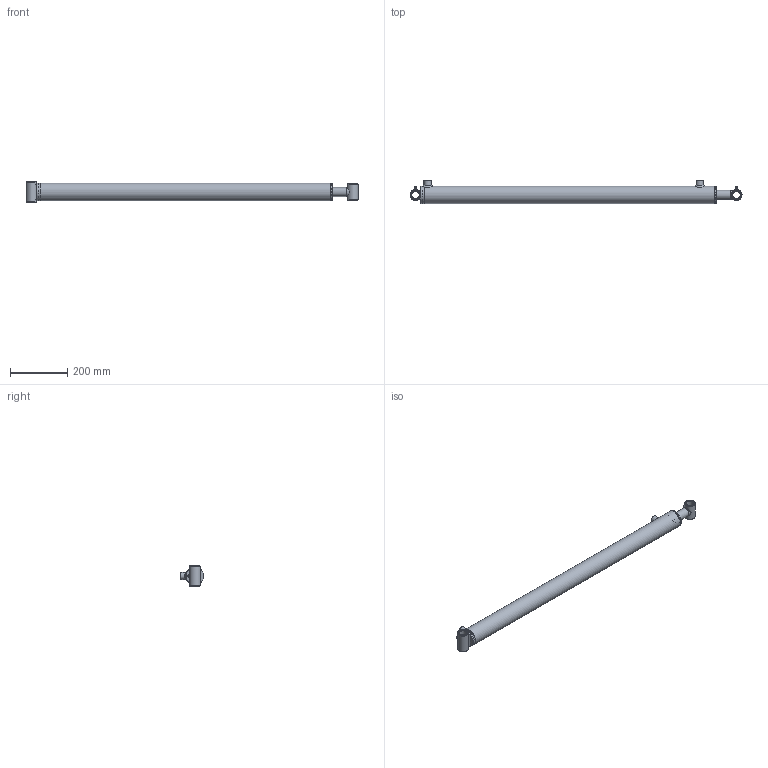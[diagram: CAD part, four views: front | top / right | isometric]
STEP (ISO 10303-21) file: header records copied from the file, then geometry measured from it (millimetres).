
FILE_DESCRIPTION(/* description */ (''),/* implementation_level */ '2;1');
FILE_NAME(/* name */ 'C:\01 - Philip\00 - Philip Rivard\01 - Contracts\Eagle Hydraulic Components\00 - 3D Cylinder\01 - Standard\HBU\HBU20XX\STEP\HBU2036.stp',/* time_stamp */ '2015-05-19T20:10:02-04:00',/* author */ ('Philip'),/* organization */ (''),/* preprocessor_version */ 'ST-DEVELOPER v16.1',/* originating_system */ 'Autodesk Inventor 2016',/* authorisation */ '');
FILE_SCHEMA (('AUTOMOTIVE_DESIGN { 1 0 10303 214 3 1 1 }'));
Length unit declared in the file: inch
Products named in the file (12): Tube_Welding_Welds; ECP-20-HBU; Tube; Straight_Port; Gland; Grease Fitting 1-8; Tube_Welding; Rod_Welding_Welds; Rod; Bushing; Rod_Welding; Cylinder_Assembly
Assembly tree (13 placements, depth 3):
  Cylinder_Assembly
    Tube_Welding
      Tube_Welding_Welds
      ECP-20-HBU
      Tube
      Straight_Port  x2
      Gland
      Grease Fitting 1-8
    Rod_Welding
      Rod_Welding_Welds
      Rod
      Bushing
      Grease Fitting 1-8
Bounding box: 1155.7 x 80.33 x 69.8 mm (x, y, z)
Volume: 1846755.7 mm3; surface area: 526078.8 mm2
Topology: 12 solids, 12 shells, 197 faces, 429 edges, 260 vertices
Faces by surface type: cone 65, plane 55, cylinder 50, torus 15, bspline 10, sphere 2
Full cylindrical faces by diameter (mm): 4 x2, 5 x1, 7.5 x2, 8 x2, 10 x2, 12.751 x2, 22 x1, 25 x4, 25.4 x2, 25.65 x2, 26 x1, 26.25 x1, 31.75 x2, 38.1 x2, 43 x1, 44.45 x1, 50.546 x1, 50.75 x1, 50.8 x1, 51 x1, 55 x4, 60.3 x1, 60.325 x1
Entity records: 6042 total; most frequent: CARTESIAN_POINT 2852, DIRECTION 631, ORIENTED_EDGE 486, AXIS2_PLACEMENT_3D 293, EDGE_LOOP 270, EDGE_CURVE 243, VERTEX_POINT 191, ADVANCED_FACE 157
